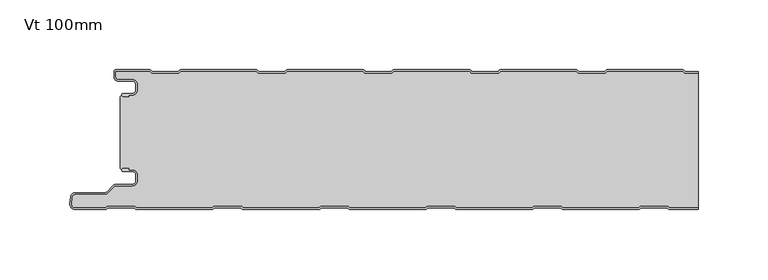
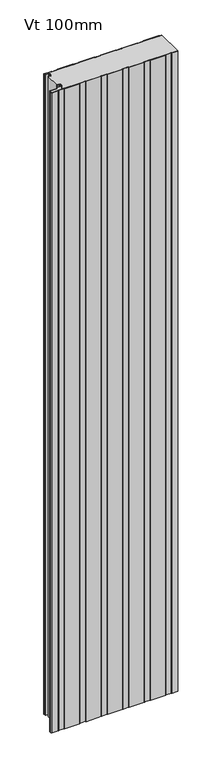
"""IFC4 building model written with IfcOpenShell, lengths in millimetres: plate geometry, KIP-MEX-KSS-1067-R19-CP-Vt-SL_SL : Vt 100mm."""

from ifc_helpers import new_model, si_unit, point, frame, frame_2d, origin, origin_with_axes, place, context, project, spatial, polyline, circle_curve, trimmed, segment, composite_curve, outline, extrude, source, transform, mapped, element, save
from ifc_brep_helpers import plane_surface, cylinder_surface, revolved_surface, advanced_brep


def vt_100mm_c336441d(model_context):
    return source(origin(), model_context, "Body", "SolidModel", [
        advanced_brep(
        [(-204.468691, -17.0015159, 2400.0), (-205.4686883, -18.0015191, 2400.0), (-204.468691, -19.0015105, 2400.0), (-200.4684874, -19.0015105, 2400.0), (-200.4684874, -18.0015159, 2400.0), (-197.7762776, -18.0015159, 2400.0), (-194.4762819, -14.7015202, 2400.0), (-194.4762819, -10.301529, 2400.0), (-197.7762774, -7.0015335, 2400.0), (-208.1962563, -7.0015335, 2400.0), (-209.9662505, -5.2315393, 2400.0), (-209.9662505, -0.9999916, 2400.0), (-185.4659738, -0.9999916, 2400.0), (-184.0803312, -2.2002307, 2400.0), (-164.7051649, -2.2002307, 2400.0), (-163.319532, -1.0, 2400.0), (-109.2661166, -1.0, 2400.0), (-107.8804836, -2.2002307, 2400.0), (-88.5053173, -2.2002307, 2400.0), (-87.1196844, -1.0, 2400.0), (-33.066269, -1.0, 2400.0), (-31.680636, -2.2002307, 2400.0), (-12.3054697, -2.2002307, 2400.0), (-10.9198368, -1.0, 2400.0), (43.1335786, -1.0, 2400.0), (44.5192116, -2.2002307, 2400.0), (63.8943779, -2.2002307, 2400.0), (65.2800108, -1.0, 2400.0), (119.3334262, -1.0, 2400.0), (120.7190592, -2.2002307, 2400.0), (140.0942255, -2.2002307, 2400.0), (141.4798584, -1.0, 2400.0), (195.5332738, -1.0, 2400.0), (196.9189068, -2.2002307, 2400.0), (206.4999998, -2.2002307, 2400.0), (206.4999998, -1.2002307, 2400.0), (197.2917872, -1.2002307, 2400.0), (196.3007396, -0.3417885, 2400.0), (195.3841227, 0.0, 2400.0), (141.6290096, 0.0, 2400.0), (140.7123927, -0.3417885, 2400.0), (139.7213451, -1.2002307, 2400.0), (121.0919396, -1.2002307, 2400.0), (120.100892, -0.3417885, 2400.0), (119.1842751, 0.0, 2400.0), (65.429162, 0.0, 2400.0), (64.5125451, -0.3417885, 2400.0), (63.5214975, -1.2002307, 2400.0), (44.892092, -1.2002307, 2400.0), (43.9010444, -0.3417885, 2400.0), (42.9844275, 0.0, 2400.0), (-10.7706856, 0.0, 2400.0), (-11.6873025, -0.3417885, 2400.0), (-12.6783501, -1.2002307, 2400.0), (-31.3077556, -1.2002307, 2400.0), (-32.2988032, -0.3417885, 2400.0), (-33.2154201, 0.0, 2400.0), (-86.9705332, 0.0, 2400.0), (-87.8871501, -0.3417885, 2400.0), (-88.8781977, -1.2002307, 2400.0), (-107.5076032, -1.2002307, 2400.0), (-108.4986508, -0.3417885, 2400.0), (-109.4152677, 0.0, 2400.0), (-163.1703808, 0.0, 2400.0), (-164.0869977, -0.3417885, 2400.0), (-165.0780453, -1.2002307, 2400.0), (-183.7074508, -1.2002307, 2400.0), (-184.6984984, -0.3417885, 2400.0), (-185.6152067, 0.0, 2400.0), (-209.5662543, 8.4e-06, 2400.0), (-210.9662505, -1.3999878, 2400.0), (-210.9662505, -5.2315393, 2400.0), (-208.1962563, -8.0015335, 2400.0), (-197.7762774, -8.0015335, 2400.0), (-195.4762819, -10.301529, 2400.0), (-195.4762819, -14.7015202, 2400.0), (-197.7762776, -17.0015159, 2400.0), (-204.468691, -17.0015159, 0.0), (-197.7762776, -17.0015159, 0.0), (-195.4762819, -14.7015202, 0.0), (-195.4762819, -10.301529, 0.0), (-197.7762774, -8.0015335, 0.0), (-208.1962563, -8.0015335, 0.0), (-210.9662505, -5.2315393, 0.0), (-210.9662505, -1.3999878, 0.0), (-209.5662543, 8.4e-06, 0.0), (-185.6151153, 8.4e-06, 0.0), (-184.6984984, -0.3417885, 0.0), (-183.7074508, -1.2002307, 0.0), (-165.0780453, -1.2002307, 0.0), (-164.0869977, -0.3417885, 0.0), (-163.1703808, 0.0, 0.0), (-109.4152677, 0.0, 0.0), (-108.4986508, -0.3417885, 0.0), (-107.5076032, -1.2002307, 0.0), (-88.8781977, -1.2002307, 0.0), (-87.8871501, -0.3417885, 0.0), (-86.9705332, 0.0, 0.0), (-33.2154201, 0.0, 0.0), (-32.2988032, -0.3417885, 0.0), (-31.3077556, -1.2002307, 0.0), (-12.6783501, -1.2002307, 0.0), (-11.6873025, -0.3417885, 0.0), (-10.7706856, 0.0, 0.0), (42.9844275, 0.0, 0.0), (43.9010444, -0.3417885, 0.0), (44.892092, -1.2002307, 0.0), (63.5214975, -1.2002307, 0.0), (64.5125451, -0.3417885, 0.0), (65.429162, 0.0, 0.0), (119.1842751, 0.0, 0.0), (120.100892, -0.3417885, 0.0), (121.0919396, -1.2002307, 0.0), (139.7213451, -1.2002307, 0.0), (140.7123927, -0.3417885, 0.0), (141.6290096, 0.0, 0.0), (195.3841227, 0.0, 0.0), (196.3007396, -0.3417885, 0.0), (197.2917872, -1.2002307, 0.0), (206.4999998, -1.2002307, 0.0), (206.4999998, -2.2002307, 0.0), (196.9189068, -2.2002307, 0.0), (195.5332738, -1.0, 0.0), (141.4798584, -1.0, 0.0), (140.0942255, -2.2002307, 0.0), (120.7190592, -2.2002307, 0.0), (119.3334262, -1.0, 0.0), (65.2800108, -1.0, 0.0), (63.8943779, -2.2002307, 0.0), (44.5192116, -2.2002307, 0.0), (43.1335786, -1.0, 0.0), (-10.9198368, -1.0, 0.0), (-12.3054697, -2.2002307, 0.0), (-31.680636, -2.2002307, 0.0), (-33.066269, -1.0, 0.0), (-87.1196844, -1.0, 0.0), (-88.5053173, -2.2002307, 0.0), (-107.8804836, -2.2002307, 0.0), (-109.2661166, -1.0, 0.0), (-163.319532, -1.0, 0.0), (-164.7051649, -2.2002307, 0.0), (-184.0803312, -2.2002307, 0.0), (-185.4659738, -0.9999916, 0.0), (-209.9662505, -0.9999916, 0.0), (-209.9662505, -5.2315393, 0.0), (-208.1962563, -7.0015335, 0.0), (-197.7762774, -7.0015335, 0.0), (-194.4762819, -10.301529, 0.0), (-194.4762819, -14.7015202, 0.0), (-197.7762776, -18.0015159, 0.0), (-200.4684874, -18.0015159, 0.0), (-200.4684874, -19.0015105, 0.0), (-204.468691, -19.0015105, 0.0), (-205.4686882, -18.0015192, 0.0)],
        [
            (0, 1, circle_curve(frame((-204.468691, -18.0015132, 2400.0), z_axis=(0.0, 0.0, 1.0), x_axis=(1.0, 0.0, 0.0)), 0.9999973)),
            (1, 2, circle_curve(frame((-204.468691, -18.0015133, 2400.0), z_axis=(0.0, 0.0, 1.0), x_axis=(1.0, 0.0, 0.0)), 0.9999972)),
            (2, 3),
            (3, 4),
            (4, 5),
            (5, 6, circle_curve(frame((-197.7762776, -14.7015202, 2400.0), z_axis=(0.0, 0.0, 1.0), x_axis=(1.0, 0.0, 0.0)), 3.2999957)),
            (6, 7),
            (7, 8, circle_curve(frame((-197.7762774, -10.301529, 2400.0), z_axis=(0.0, 0.0, 1.0), x_axis=(1.0, 0.0, 0.0)), 3.2999955)),
            (8, 9),
            (9, 10, circle_curve(frame((-208.1962563, -5.2315393, 2400.0), z_axis=(0.0, 0.0, -1.0), x_axis=(1.0, 0.0, 0.0)), 1.7699942)),
            (10, 11),
            (11, 12),
            (12, 13),
            (13, 14),
            (14, 15),
            (15, 16),
            (16, 17),
            (17, 18),
            (18, 19),
            (19, 20),
            (20, 21),
            (21, 22),
            (22, 23),
            (23, 24),
            (24, 25),
            (25, 26),
            (26, 27),
            (27, 28),
            (28, 29),
            (29, 30),
            (30, 31),
            (31, 32),
            (32, 33),
            (33, 34),
            (34, 35),
            (35, 36),
            (36, 37),
            (37, 38, circle_curve(frame((195.3841227, -1.3999972, 2400.0), z_axis=(0.0, 0.0, 1.0), x_axis=(1.0, 0.0, 0.0)), 1.3999972)),
            (38, 39),
            (39, 40, circle_curve(frame((141.6290096, -1.3999972, 2400.0), z_axis=(0.0, 0.0, 1.0), x_axis=(1.0, 0.0, 0.0)), 1.3999972)),
            (40, 41),
            (41, 42),
            (42, 43),
            (43, 44, circle_curve(frame((119.1842751, -1.3999972, 2400.0), z_axis=(0.0, 0.0, 1.0), x_axis=(1.0, 0.0, 0.0)), 1.3999972)),
            (44, 45),
            (45, 46, circle_curve(frame((65.429162, -1.3999972, 2400.0), z_axis=(0.0, 0.0, 1.0), x_axis=(1.0, 0.0, 0.0)), 1.3999972)),
            (46, 47),
            (47, 48),
            (48, 49),
            (49, 50, circle_curve(frame((42.9844275, -1.3999972, 2400.0), z_axis=(0.0, 0.0, 1.0), x_axis=(1.0, 0.0, 0.0)), 1.3999972)),
            (50, 51),
            (51, 52, circle_curve(frame((-10.7706856, -1.3999972, 2400.0), z_axis=(0.0, 0.0, 1.0), x_axis=(1.0, 0.0, 0.0)), 1.3999972)),
            (52, 53),
            (53, 54),
            (54, 55),
            (55, 56, circle_curve(frame((-33.2154201, -1.3999972, 2400.0), z_axis=(0.0, 0.0, 1.0), x_axis=(1.0, 0.0, 0.0)), 1.3999972)),
            (56, 57),
            (57, 58, circle_curve(frame((-86.9705332, -1.3999972, 2400.0), z_axis=(0.0, 0.0, 1.0), x_axis=(1.0, 0.0, 0.0)), 1.3999972)),
            (58, 59),
            (59, 60),
            (60, 61),
            (61, 62, circle_curve(frame((-109.4152677, -1.3999972, 2400.0), z_axis=(0.0, 0.0, 1.0), x_axis=(1.0, 0.0, 0.0)), 1.3999972)),
            (62, 63),
            (63, 64, circle_curve(frame((-163.1703808, -1.3999972, 2400.0), z_axis=(0.0, 0.0, 1.0), x_axis=(1.0, 0.0, 0.0)), 1.3999972)),
            (64, 65),
            (65, 66),
            (66, 67),
            (67, 68, circle_curve(frame((-185.6151153, -1.3999972, 2400.0), z_axis=(0.0, 0.0, 1.0), x_axis=(1.0, 0.0, 0.0)), 1.3999972)),
            (68, 69),
            (69, 70, circle_curve(frame((-209.5662543, -1.3999878, 2400.0), z_axis=(0.0, 0.0, 1.0), x_axis=(1.0, 0.0, 0.0)), 1.3999962)),
            (70, 71),
            (71, 72, circle_curve(frame((-208.1962563, -5.2315393, 2400.0), z_axis=(0.0, 0.0, 1.0), x_axis=(1.0, 0.0, 0.0)), 2.7699942)),
            (72, 73),
            (73, 74, circle_curve(frame((-197.7762774, -10.301529, 2400.0), z_axis=(0.0, 0.0, -1.0), x_axis=(1.0, 0.0, 0.0)), 2.2999955)),
            (74, 75),
            (75, 76, circle_curve(frame((-197.7762776, -14.7015202, 2400.0), z_axis=(0.0, 0.0, -1.0), x_axis=(1.0, 0.0, 0.0)), 2.2999957)),
            (76, 0),
            (77, 78),
            (78, 79, circle_curve(frame((-197.7762776, -14.7015202, 0.0), z_axis=(0.0, 0.0, 1.0), x_axis=(1.0, 0.0, 0.0)), 2.2999957)),
            (79, 80),
            (80, 81, circle_curve(frame((-197.7762774, -10.301529, 0.0), z_axis=(0.0, 0.0, 1.0), x_axis=(1.0, 0.0, 0.0)), 2.2999955)),
            (81, 82),
            (82, 83, circle_curve(frame((-208.1962563, -5.2315393, 0.0), z_axis=(0.0, 0.0, -1.0), x_axis=(1.0, 0.0, 0.0)), 2.7699942)),
            (83, 84),
            (84, 85, circle_curve(frame((-209.5662543, -1.3999878, 0.0), z_axis=(0.0, 0.0, -1.0), x_axis=(1.0, 0.0, 0.0)), 1.3999962)),
            (85, 86),
            (86, 87, circle_curve(frame((-185.6151153, -1.3999972, 0.0), z_axis=(0.0, 0.0, -1.0), x_axis=(1.0, 0.0, 0.0)), 1.3999972)),
            (87, 88),
            (88, 89),
            (89, 90),
            (90, 91, circle_curve(frame((-163.1703808, -1.3999972, 0.0), z_axis=(0.0, 0.0, -1.0), x_axis=(1.0, 0.0, 0.0)), 1.3999972)),
            (91, 92),
            (92, 93, circle_curve(frame((-109.4152677, -1.3999972, 0.0), z_axis=(0.0, 0.0, -1.0), x_axis=(1.0, 0.0, 0.0)), 1.3999972)),
            (93, 94),
            (94, 95),
            (95, 96),
            (96, 97, circle_curve(frame((-86.9705332, -1.3999972, 0.0), z_axis=(0.0, 0.0, -1.0), x_axis=(1.0, 0.0, 0.0)), 1.3999972)),
            (97, 98),
            (98, 99, circle_curve(frame((-33.2154201, -1.3999972, 0.0), z_axis=(0.0, 0.0, -1.0), x_axis=(1.0, 0.0, 0.0)), 1.3999972)),
            (99, 100),
            (100, 101),
            (101, 102),
            (102, 103, circle_curve(frame((-10.7706856, -1.3999972, 0.0), z_axis=(0.0, 0.0, -1.0), x_axis=(1.0, 0.0, 0.0)), 1.3999972)),
            (103, 104),
            (104, 105, circle_curve(frame((42.9844275, -1.3999972, 0.0), z_axis=(0.0, 0.0, -1.0), x_axis=(1.0, 0.0, 0.0)), 1.3999972)),
            (105, 106),
            (106, 107),
            (107, 108),
            (108, 109, circle_curve(frame((65.429162, -1.3999972, 0.0), z_axis=(0.0, 0.0, -1.0), x_axis=(1.0, 0.0, 0.0)), 1.3999972)),
            (109, 110),
            (110, 111, circle_curve(frame((119.1842751, -1.3999972, 0.0), z_axis=(0.0, 0.0, -1.0), x_axis=(1.0, 0.0, 0.0)), 1.3999972)),
            (111, 112),
            (112, 113),
            (113, 114),
            (114, 115, circle_curve(frame((141.6290096, -1.3999972, 0.0), z_axis=(0.0, 0.0, -1.0), x_axis=(1.0, 0.0, 0.0)), 1.3999972)),
            (115, 116),
            (116, 117, circle_curve(frame((195.3841227, -1.3999972, 0.0), z_axis=(0.0, 0.0, -1.0), x_axis=(1.0, 0.0, 0.0)), 1.3999972)),
            (117, 118),
            (118, 119),
            (119, 120),
            (120, 121),
            (121, 122),
            (122, 123),
            (123, 124),
            (124, 125),
            (125, 126),
            (126, 127),
            (127, 128),
            (128, 129),
            (129, 130),
            (130, 131),
            (131, 132),
            (132, 133),
            (133, 134),
            (134, 135),
            (135, 136),
            (136, 137),
            (137, 138),
            (138, 139),
            (139, 140),
            (140, 141),
            (141, 142),
            (142, 143),
            (143, 144),
            (144, 145, circle_curve(frame((-208.1962563, -5.2315393, 0.0), z_axis=(0.0, 0.0, 1.0), x_axis=(1.0, 0.0, 0.0)), 1.7699942)),
            (145, 146),
            (146, 147, circle_curve(frame((-197.7762774, -10.301529, 0.0), z_axis=(0.0, 0.0, -1.0), x_axis=(1.0, 0.0, 0.0)), 3.2999955)),
            (147, 148),
            (148, 149, circle_curve(frame((-197.7762776, -14.7015202, 0.0), z_axis=(0.0, 0.0, -1.0), x_axis=(1.0, 0.0, 0.0)), 3.2999957)),
            (149, 150),
            (150, 151),
            (151, 152),
            (152, 153, circle_curve(frame((-204.468691, -18.0015133, 0.0), z_axis=(0.0, 0.0, -1.0), x_axis=(1.0, 0.0, 0.0)), 0.9999972)),
            (153, 77, circle_curve(frame((-204.468691, -18.0015132, 0.0), z_axis=(0.0, 0.0, -1.0), x_axis=(1.0, 0.0, 0.0)), 0.9999973)),
            (76, 78),
            (77, 0),
            (75, 79),
            (74, 80),
            (73, 81),
            (72, 82),
            (71, 83),
            (70, 84),
            (69, 85),
            (68, 86),
            (67, 87),
            (66, 88),
            (65, 89),
            (64, 90),
            (63, 91),
            (62, 92),
            (61, 93),
            (60, 94),
            (59, 95),
            (58, 96),
            (57, 97),
            (56, 98),
            (55, 99),
            (54, 100),
            (53, 101),
            (52, 102),
            (51, 103),
            (50, 104),
            (49, 105),
            (48, 106),
            (47, 107),
            (46, 108),
            (45, 109),
            (44, 110),
            (43, 111),
            (42, 112),
            (41, 113),
            (40, 114),
            (39, 115),
            (38, 116),
            (37, 117),
            (36, 118),
            (35, 119),
            (120, 34),
            (33, 121),
            (32, 122),
            (31, 123),
            (30, 124),
            (29, 125),
            (28, 126),
            (27, 127),
            (26, 128),
            (25, 129),
            (24, 130),
            (23, 131),
            (22, 132),
            (21, 133),
            (20, 134),
            (19, 135),
            (18, 136),
            (17, 137),
            (16, 138),
            (15, 139),
            (14, 140),
            (13, 141),
            (12, 142),
            (11, 143),
            (10, 144),
            (9, 145),
            (8, 146),
            (7, 147),
            (6, 148),
            (5, 149),
            (4, 150),
            (3, 151),
            (2, 152),
            (1, 153),
        ],
        [
            plane_surface(frame((326.9000002, 0.0, 2400.0), z_axis=(0.0, 0.0, 1.0), x_axis=(0.0, 1.0, 0.0))),
            plane_surface(frame((326.9000002, 0.0, 0.0), z_axis=(0.0, 0.0, -1.0), x_axis=(0.0, 1.0, 0.0))),
            plane_surface(frame((-204.468691, -17.0015159, 2400.0), z_axis=(0.0, 1.0, 0.0), x_axis=(0.0, 0.0, -1.0))),
            revolved_surface(polyline([(-195.47628189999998, -14.7015202, 0.0), (-195.47628189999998, -14.7015202, 2400.0)]), (-197.7762776, -14.7015202, 2400.0), (0.0, 0.0, -1.0)),
            plane_surface(frame((-195.4762819, -14.7015202, 2400.0), z_axis=(-1.0, 0.0, 0.0), x_axis=(0.0, 0.0, -1.0))),
            revolved_surface(polyline([(-195.4762819, -10.301529, 0.0), (-195.4762819, -10.301529, 2400.0)]), (-197.7762774, -10.301529, 2400.0), (0.0, 0.0, -1.0)),
            plane_surface(frame((-197.7762774, -8.0015335, 2400.0), z_axis=(0.0, -1.0, 0.0), x_axis=(0.0, 0.0, -1.0))),
            cylinder_surface(frame((-208.1962563, -5.2315393, 2400.0), z_axis=(0.0, 0.0, 1.0), x_axis=(1.0, 0.0, 0.0)), 2.7699942),
            plane_surface(frame((-210.9662505, -5.2315393, 2400.0), z_axis=(-1.0, 0.0, 0.0), x_axis=(0.0, 0.0, -1.0))),
            cylinder_surface(frame((-209.5662543, -1.3999878, 2400.0), z_axis=(0.0, 0.0, 1.0), x_axis=(1.0, 0.0, 0.0)), 1.3999962),
            plane_surface(frame((-209.5662543, 8.4e-06, 2400.0), z_axis=(0.0, 1.0, 0.0), x_axis=(0.0, 0.0, -1.0))),
            cylinder_surface(frame((-185.6151153, -1.3999972, 2400.0), z_axis=(0.0, 0.0, 1.0), x_axis=(1.0, 0.0, 0.0)), 1.3999972),
            plane_surface(frame((-184.6984984, -0.3417885, 2400.0), z_axis=(0.6547276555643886, 0.755864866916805, 0.0), x_axis=(0.0, 0.0, -1.0))),
            plane_surface(frame((-174.3927481, -1.2002307, 2400.0), z_axis=(0.0, 1.0, 0.0), x_axis=(0.0, 0.0, -1.0))),
            plane_surface(frame((-165.0780453, -1.2002307, 2400.0), z_axis=(-0.6547276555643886, 0.755864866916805, 0.0), x_axis=(0.0, 0.0, -1.0))),
            cylinder_surface(frame((-163.1703808, -1.3999972, 2400.0), z_axis=(0.0, 0.0, 1.0), x_axis=(1.0, 0.0, 0.0)), 1.3999972),
            plane_surface(frame((-163.1703808, 0.0, 2400.0), z_axis=(0.0, 1.0, 0.0), x_axis=(0.0, 0.0, -1.0))),
            cylinder_surface(frame((-109.4152677, -1.3999972, 2400.0), z_axis=(0.0, 0.0, 1.0), x_axis=(1.0, 0.0, 0.0)), 1.3999972),
            plane_surface(frame((-108.4986508, -0.3417885, 2400.0), z_axis=(0.6547276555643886, 0.755864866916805, 0.0), x_axis=(0.0, 0.0, -1.0))),
            plane_surface(frame((-98.1929005, -1.2002307, 2400.0), z_axis=(0.0, 1.0, 0.0), x_axis=(0.0, 0.0, -1.0))),
            plane_surface(frame((-88.8781977, -1.2002307, 2400.0), z_axis=(-0.6547276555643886, 0.755864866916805, 0.0), x_axis=(0.0, 0.0, -1.0))),
            cylinder_surface(frame((-86.9705332, -1.3999972, 2400.0), z_axis=(0.0, 0.0, 1.0), x_axis=(1.0, 0.0, 0.0)), 1.3999972),
            plane_surface(frame((-86.9705332, 0.0, 2400.0), z_axis=(0.0, 1.0, 0.0), x_axis=(0.0, 0.0, -1.0))),
            cylinder_surface(frame((-33.2154201, -1.3999972, 2400.0), z_axis=(0.0, 0.0, 1.0), x_axis=(1.0, 0.0, 0.0)), 1.3999972),
            plane_surface(frame((-32.2988032, -0.3417885, 2400.0), z_axis=(0.6547276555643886, 0.755864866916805, 0.0), x_axis=(0.0, 0.0, -1.0))),
            plane_surface(frame((-21.9930529, -1.2002307, 2400.0), z_axis=(0.0, 1.0, 0.0), x_axis=(0.0, 0.0, -1.0))),
            plane_surface(frame((-12.6783501, -1.2002307, 2400.0), z_axis=(-0.6547276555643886, 0.755864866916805, 0.0), x_axis=(0.0, 0.0, -1.0))),
            cylinder_surface(frame((-10.7706856, -1.3999972, 2400.0), z_axis=(0.0, 0.0, 1.0), x_axis=(1.0, 0.0, 0.0)), 1.3999972),
            plane_surface(frame((-10.7706856, 0.0, 2400.0), z_axis=(0.0, 1.0, 0.0), x_axis=(0.0, 0.0, -1.0))),
            cylinder_surface(frame((42.9844275, -1.3999972, 2400.0), z_axis=(0.0, 0.0, 1.0), x_axis=(1.0, 0.0, 0.0)), 1.3999972),
            plane_surface(frame((43.9010444, -0.3417885, 2400.0), z_axis=(0.6547276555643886, 0.755864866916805, 0.0), x_axis=(0.0, 0.0, -1.0))),
            plane_surface(frame((54.2067947, -1.2002307, 2400.0), z_axis=(0.0, 1.0, 0.0), x_axis=(0.0, 0.0, -1.0))),
            plane_surface(frame((63.5214975, -1.2002307, 2400.0), z_axis=(-0.6547276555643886, 0.755864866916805, 0.0), x_axis=(0.0, 0.0, -1.0))),
            cylinder_surface(frame((65.429162, -1.3999972, 2400.0), z_axis=(0.0, 0.0, 1.0), x_axis=(1.0, 0.0, 0.0)), 1.3999972),
            plane_surface(frame((65.429162, 0.0, 2400.0), z_axis=(0.0, 1.0, 0.0), x_axis=(0.0, 0.0, -1.0))),
            cylinder_surface(frame((119.1842751, -1.3999972, 2400.0), z_axis=(0.0, 0.0, 1.0), x_axis=(1.0, 0.0, 0.0)), 1.3999972),
            plane_surface(frame((120.100892, -0.3417885, 2400.0), z_axis=(0.6547276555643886, 0.755864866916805, 0.0), x_axis=(0.0, 0.0, -1.0))),
            plane_surface(frame((130.4066423, -1.2002307, 2400.0), z_axis=(0.0, 1.0, 0.0), x_axis=(0.0, 0.0, -1.0))),
            plane_surface(frame((139.7213451, -1.2002307, 2400.0), z_axis=(-0.6547276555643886, 0.755864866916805, 0.0), x_axis=(0.0, 0.0, -1.0))),
            cylinder_surface(frame((141.6290096, -1.3999972, 2400.0), z_axis=(0.0, 0.0, 1.0), x_axis=(1.0, 0.0, 0.0)), 1.3999972),
            plane_surface(frame((141.6290096, 0.0, 2400.0), z_axis=(0.0, 1.0, 0.0), x_axis=(0.0, 0.0, -1.0))),
            cylinder_surface(frame((195.3841227, -1.3999972, 2400.0), z_axis=(0.0, 0.0, 1.0), x_axis=(1.0, 0.0, 0.0)), 1.3999972),
            plane_surface(frame((196.3007396, -0.3417885, 2400.0), z_axis=(0.6547276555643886, 0.755864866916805, 0.0), x_axis=(0.0, 0.0, -1.0))),
            plane_surface(frame((206.6064899, -1.2002307, 2400.0), z_axis=(0.0, 1.0, 0.0), x_axis=(0.0, 0.0, -1.0))),
            plane_surface(frame((216.2940731, -2.2002307, 2400.0), z_axis=(0.0, -1.0, 0.0), x_axis=(0.0, 0.0, -1.0))),
            plane_surface(frame((196.9189068, -2.2002307, 2400.0), z_axis=(-0.6547276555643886, -0.755864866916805, 0.0), x_axis=(0.0, 0.0, -1.0))),
            plane_surface(frame((195.5332738, -1.0, 2400.0), z_axis=(0.0, -1.0, 0.0), x_axis=(0.0, 0.0, -1.0))),
            plane_surface(frame((141.4798584, -1.0, 2400.0), z_axis=(0.6547276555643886, -0.755864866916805, 0.0), x_axis=(0.0, 0.0, -1.0))),
            plane_surface(frame((140.0942255, -2.2002307, 2400.0), z_axis=(0.0, -1.0, 0.0), x_axis=(0.0, 0.0, -1.0))),
            plane_surface(frame((120.7190592, -2.2002307, 2400.0), z_axis=(-0.6547276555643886, -0.755864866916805, 0.0), x_axis=(0.0, 0.0, -1.0))),
            plane_surface(frame((119.3334262, -1.0, 2400.0), z_axis=(0.0, -1.0, 0.0), x_axis=(0.0, 0.0, -1.0))),
            plane_surface(frame((65.2800108, -1.0, 2400.0), z_axis=(0.6547276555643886, -0.755864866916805, 0.0), x_axis=(0.0, 0.0, -1.0))),
            plane_surface(frame((63.8943779, -2.2002307, 2400.0), z_axis=(0.0, -1.0, 0.0), x_axis=(0.0, 0.0, -1.0))),
            plane_surface(frame((44.5192116, -2.2002307, 2400.0), z_axis=(-0.6547276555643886, -0.755864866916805, 0.0), x_axis=(0.0, 0.0, -1.0))),
            plane_surface(frame((43.1335786, -1.0, 2400.0), z_axis=(0.0, -1.0, 0.0), x_axis=(0.0, 0.0, -1.0))),
            plane_surface(frame((-10.9198368, -1.0, 2400.0), z_axis=(0.6547276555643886, -0.755864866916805, 0.0), x_axis=(0.0, 0.0, -1.0))),
            plane_surface(frame((-12.3054697, -2.2002307, 2400.0), z_axis=(0.0, -1.0, 0.0), x_axis=(0.0, 0.0, -1.0))),
            plane_surface(frame((-31.680636, -2.2002307, 2400.0), z_axis=(-0.6547276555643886, -0.755864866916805, 0.0), x_axis=(0.0, 0.0, -1.0))),
            plane_surface(frame((-33.066269, -1.0, 2400.0), z_axis=(0.0, -1.0, 0.0), x_axis=(0.0, 0.0, -1.0))),
            plane_surface(frame((-87.1196844, -1.0, 2400.0), z_axis=(0.6547276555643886, -0.755864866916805, 0.0), x_axis=(0.0, 0.0, -1.0))),
            plane_surface(frame((-88.5053173, -2.2002307, 2400.0), z_axis=(0.0, -1.0, 0.0), x_axis=(0.0, 0.0, -1.0))),
            plane_surface(frame((-107.8804836, -2.2002307, 2400.0), z_axis=(-0.6547276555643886, -0.755864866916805, 0.0), x_axis=(0.0, 0.0, -1.0))),
            plane_surface(frame((-109.2661166, -1.0, 2400.0), z_axis=(0.0, -1.0, 0.0), x_axis=(0.0, 0.0, -1.0))),
            plane_surface(frame((-163.319532, -1.0, 2400.0), z_axis=(0.6547276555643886, -0.755864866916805, 0.0), x_axis=(0.0, 0.0, -1.0))),
            plane_surface(frame((-164.7051649, -2.2002307, 2400.0), z_axis=(0.0, -1.0, 0.0), x_axis=(0.0, 0.0, -1.0))),
            plane_surface(frame((-184.0803312, -2.2002307, 2400.0), z_axis=(-0.6547276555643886, -0.755864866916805, 0.0), x_axis=(0.0, 0.0, -1.0))),
            plane_surface(frame((-185.4659738, -0.9999916, 2400.0), z_axis=(0.0, -1.0, 0.0), x_axis=(0.0, 0.0, -1.0))),
            plane_surface(frame((-209.9662505, -0.9999916, 2400.0), z_axis=(1.0, 0.0, 0.0), x_axis=(0.0, 0.0, -1.0))),
            revolved_surface(polyline([(-206.42626209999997, -5.2315393, 0.0), (-206.42626209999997, -5.2315393, 2400.0)]), (-208.1962563, -5.2315393, 2400.0), (0.0, 0.0, -1.0)),
            plane_surface(frame((-208.1962563, -7.0015335, 2400.0), z_axis=(0.0, 1.0, 0.0), x_axis=(0.0, 0.0, -1.0))),
            cylinder_surface(frame((-197.7762774, -10.301529, 2400.0), z_axis=(0.0, 0.0, 1.0), x_axis=(1.0, 0.0, 0.0)), 3.2999955),
            plane_surface(frame((-194.4762819, -10.301529, 2400.0), z_axis=(1.0, 0.0, 0.0), x_axis=(0.0, 0.0, -1.0))),
            cylinder_surface(frame((-197.7762776, -14.7015202, 2400.0), z_axis=(0.0, 0.0, 1.0), x_axis=(1.0, 0.0, 0.0)), 3.2999957),
            plane_surface(frame((-197.7762776, -18.0015159, 2400.0), z_axis=(0.0, -1.0, 0.0), x_axis=(0.0, 0.0, -1.0))),
            plane_surface(frame((-200.4684874, -18.0015159, 2400.0), z_axis=(1.0, 0.0, 0.0), x_axis=(0.0, 0.0, -1.0))),
            plane_surface(frame((-200.4684874, -19.0015105, 2400.0), z_axis=(0.0, -1.0, 0.0), x_axis=(0.0, 0.0, -1.0))),
            cylinder_surface(frame((-204.468691, -18.0015133, 2400.0), z_axis=(0.0, 0.0, 1.0), x_axis=(1.0, 0.0, 0.0)), 0.9999972),
            cylinder_surface(frame((-204.468691, -18.0015132, 2400.0), z_axis=(0.0, 0.0, 1.0), x_axis=(1.0, 0.0, 0.0)), 0.9999973),
            plane_surface(frame((206.4999998, -110.0, 2400.0), z_axis=(1.0, 0.0, 0.0), x_axis=(0.0, 0.0, -1.0))),
        ],
        [
            (0, [[1, 2, 3, 4, 5, 6, 7, 8, 9, 10, 11, 12, 13, 14, 15, 16, 17, 18, 19, 20, 21, 22, 23, 24, 25, 26, 27, 28, 29, 30, 31, 32, 33, 34, 35, 36, 37, 38, 39, 40, 41, 42, 43, 44, 45, 46, 47, 48, 49, 50, 51, 52, 53, 54, 55, 56, 57, 58, 59, 60, 61, 62, 63, 64, 65, 66, 67, 68, 69, 70, 71, 72, 73, 74, 75, 76, 77]]),
            (1, [[78, 79, 80, 81, 82, 83, 84, 85, 86, 87, 88, 89, 90, 91, 92, 93, 94, 95, 96, 97, 98, 99, 100, 101, 102, 103, 104, 105, 106, 107, 108, 109, 110, 111, 112, 113, 114, 115, 116, 117, 118, 119, 120, 121, 122, 123, 124, 125, 126, 127, 128, 129, 130, 131, 132, 133, 134, 135, 136, 137, 138, 139, 140, 141, 142, 143, 144, 145, 146, 147, 148, 149, 150, 151, 152, 153, 154]]),
            (2, [[155, -78, 156, -77]]),
            (3, [[157, -79, -155, -76]]),
            (4, [[158, -80, -157, -75]]),
            (5, [[159, -81, -158, -74]]),
            (6, [[160, -82, -159, -73]]),
            (7, [[161, -83, -160, -72]]),
            (8, [[162, -84, -161, -71]]),
            (9, [[163, -85, -162, -70]]),
            (10, [[164, -86, -163, -69]]),
            (11, [[165, -87, -164, -68]]),
            (12, [[166, -88, -165, -67]]),
            (13, [[167, -89, -166, -66]]),
            (14, [[168, -90, -167, -65]]),
            (15, [[169, -91, -168, -64]]),
            (16, [[170, -92, -169, -63]]),
            (17, [[171, -93, -170, -62]]),
            (18, [[172, -94, -171, -61]]),
            (19, [[173, -95, -172, -60]]),
            (20, [[174, -96, -173, -59]]),
            (21, [[175, -97, -174, -58]]),
            (22, [[176, -98, -175, -57]]),
            (23, [[177, -99, -176, -56]]),
            (24, [[178, -100, -177, -55]]),
            (25, [[179, -101, -178, -54]]),
            (26, [[180, -102, -179, -53]]),
            (27, [[181, -103, -180, -52]]),
            (28, [[182, -104, -181, -51]]),
            (29, [[183, -105, -182, -50]]),
            (30, [[184, -106, -183, -49]]),
            (31, [[185, -107, -184, -48]]),
            (32, [[186, -108, -185, -47]]),
            (33, [[187, -109, -186, -46]]),
            (34, [[188, -110, -187, -45]]),
            (35, [[189, -111, -188, -44]]),
            (36, [[190, -112, -189, -43]]),
            (37, [[191, -113, -190, -42]]),
            (38, [[192, -114, -191, -41]]),
            (39, [[193, -115, -192, -40]]),
            (40, [[194, -116, -193, -39]]),
            (41, [[195, -117, -194, -38]]),
            (42, [[196, -118, -195, -37]]),
            (43, [[-36, 197, -119, -196]]),
            (44, [[-121, 198, -34, 199]]),
            (45, [[200, -122, -199, -33]]),
            (46, [[201, -123, -200, -32]]),
            (47, [[202, -124, -201, -31]]),
            (48, [[203, -125, -202, -30]]),
            (49, [[204, -126, -203, -29]]),
            (50, [[205, -127, -204, -28]]),
            (51, [[206, -128, -205, -27]]),
            (52, [[207, -129, -206, -26]]),
            (53, [[208, -130, -207, -25]]),
            (54, [[209, -131, -208, -24]]),
            (55, [[210, -132, -209, -23]]),
            (56, [[211, -133, -210, -22]]),
            (57, [[212, -134, -211, -21]]),
            (58, [[213, -135, -212, -20]]),
            (59, [[214, -136, -213, -19]]),
            (60, [[215, -137, -214, -18]]),
            (61, [[216, -138, -215, -17]]),
            (62, [[217, -139, -216, -16]]),
            (63, [[218, -140, -217, -15]]),
            (64, [[219, -141, -218, -14]]),
            (65, [[220, -142, -219, -13]]),
            (66, [[221, -143, -220, -12]]),
            (67, [[222, -144, -221, -11]]),
            (68, [[223, -145, -222, -10]]),
            (69, [[224, -146, -223, -9]]),
            (70, [[225, -147, -224, -8]]),
            (71, [[226, -148, -225, -7]]),
            (72, [[227, -149, -226, -6]]),
            (73, [[228, -150, -227, -5]]),
            (74, [[229, -151, -228, -4]]),
            (75, [[230, -152, -229, -3]]),
            (76, [[231, -153, -230, -2]]),
            (77, [[-156, -154, -231, -1]]),
            (78, [[-198, -120, -197, -35]]),
        ],
    ),
        extrude(outline(composite_curve([segment(polyline([(-217.1415932, -100.0006394), (-238.9521175, -100.0006394)]), True, "CONTINUOUS"), segment(trimmed(circle_curve(frame_2d((-238.9521175, -96.4304001)), 3.5702393), [point((-238.9521175, -100.0006394))], [point((-242.5087619, -96.1191297))], False, "CARTESIAN"), True, "CONTINUOUS"), segment(polyline([(-242.5087619, -96.1191297), (-242.0690674, -91.0950831)]), True, "CONTINUOUS"), segment(trimmed(circle_curve(frame_2d((-238.4198391, -91.7058842)), 3.6999926), [point((-242.0690674, -91.0950831))], [point((-238.4198391, -88.0058916))], False, "CARTESIAN"), True, "CONTINUOUS"), segment(polyline([(-238.4198391, -88.0058916), (-217.2773995, -88.0058916)]), True, "CONTINUOUS"), segment(trimmed(circle_curve(frame_2d((-217.2773995, -86.7058942)), 1.2999974), [point((-217.2773995, -88.0058916))], [point((-216.3581626, -87.6251312))], True, "CARTESIAN"), True, "CONTINUOUS"), segment(polyline([(-216.3581626, -87.6251312), (-211.5297451, -82.7967137)]), True, "CONTINUOUS"), segment(trimmed(circle_curve(frame_2d((-209.6205606, -84.7058982)), 2.6999946), [point((-211.5297451, -82.7967137))], [point((-209.6205606, -82.0059036))], False, "CARTESIAN"), True, "CONTINUOUS"), segment(polyline([(-209.6205606, -82.0059036), (-197.8096715, -82.0059036)]), True, "CONTINUOUS"), segment(trimmed(circle_curve(frame_2d((-197.8096715, -79.6559083)), 2.3499953), [point((-197.8096715, -82.0059036))], [point((-195.4596762, -79.6559083))], True, "CARTESIAN"), True, "CONTINUOUS"), segment(polyline([(-195.4596762, -79.6559083), (-195.4596762, -75.2559171)]), True, "CONTINUOUS"), segment(trimmed(circle_curve(frame_2d((-197.8096715, -75.2559171)), 2.3499953), [point((-195.4596762, -75.2559171))], [point((-197.8096715, -72.9059218))], True, "CARTESIAN"), True, "CONTINUOUS"), segment(polyline([(-197.8096715, -72.9059218), (-204.3289777, -72.9059218)]), True, "CONTINUOUS"), segment(trimmed(circle_curve(frame_2d((-204.2686906, -71.7074396)), 1.1999976), [point((-204.3289777, -72.9059218))], [point((-205.4683, -71.6769177))], False, "CARTESIAN"), True, "CONTINUOUS"), segment(trimmed(circle_curve(frame_2d((-204.2686906, -71.7074396)), 1.1999976), [point((-205.4683, -71.6769177))], [point((-204.267176, -70.5074429))], False, "CARTESIAN"), True, "CONTINUOUS"), segment(polyline([(-204.267176, -70.5074429), (-200.5087826, -70.5074429), (-200.5087826, -71.9059218), (-197.8096715, -71.9059218)]), True, "CONTINUOUS"), segment(trimmed(circle_curve(frame_2d((-197.8096715, -75.2559171)), 3.3499953), [point((-197.8096715, -71.9059218))], [point((-194.4596762, -75.2559171))], False, "CARTESIAN"), True, "CONTINUOUS"), segment(polyline([(-194.4596762, -75.2559171), (-194.4596762, -79.6559083)]), True, "CONTINUOUS"), segment(trimmed(circle_curve(frame_2d((-197.8096715, -79.6559083)), 3.3499953), [point((-194.4596762, -79.6559083))], [point((-197.8096715, -83.0059036))], False, "CARTESIAN"), True, "CONTINUOUS"), segment(polyline([(-197.8096715, -83.0059036), (-209.6205606, -83.0059036)]), True, "CONTINUOUS"), segment(trimmed(circle_curve(frame_2d((-209.6205606, -84.7058982)), 1.6999946), [point((-209.6205606, -83.0059036))], [point((-210.8226383, -83.5038205))], True, "CARTESIAN"), True, "CONTINUOUS"), segment(polyline([(-210.8226383, -83.5038205), (-216.3247094, -89.0058916), (-238.4198391, -89.0058916)]), True, "CONTINUOUS"), segment(trimmed(circle_curve(frame_2d((-238.4198391, -91.7058842)), 2.6999926), [point((-238.4198391, -89.0058916))], [point((-241.0765707, -91.2244936))], True, "CARTESIAN"), True, "CONTINUOUS"), segment(polyline([(-241.0765707, -91.2244936), (-241.5125697, -96.2063145)]), True, "CONTINUOUS"), segment(trimmed(circle_curve(frame_2d((-238.9521175, -96.4304001)), 2.5702393), [point((-241.5125697, -96.2063145))], [point((-238.9521175, -99.0006394))], True, "CARTESIAN"), True, "CONTINUOUS"), segment(polyline([(-238.9521175, -99.0006394), (-216.979096, -99.0006394), (-215.7791275, -97.8006709), (-196.059715, -97.8006709), (-194.8594843, -99.0009016), (-140.7793525, -99.0009016), (-139.5791218, -97.8006709), (-119.8597093, -97.8006709), (-118.6594786, -99.0009016), (-64.5793468, -99.0009016), (-63.3791161, -97.8006709), (-43.6597036, -97.8006709), (-42.4594729, -99.0009016), (11.6206589, -99.0009016), (12.8208896, -97.8006709), (32.5403021, -97.8006709), (33.7405328, -99.0009016), (87.8206646, -99.0009016), (89.0208953, -97.8006709), (108.7403078, -97.8006709), (109.9405385, -99.0009016), (164.0206703, -99.0009016), (165.220901, -97.8006709), (184.9403135, -97.8006709), (186.1405442, -99.0009016), (206.4999998, -99.0009016), (206.4999998, -100.0009016), (186.3099792, -100.0009016)]), True, "CONTINUOUS"), segment(trimmed(circle_curve(frame_2d((186.3023258, -98.6009253)), 1.3999972), [point((186.3099792, -100.0009016))], [point((185.258275, -99.5336365))], False, "CARTESIAN"), True, "CONTINUOUS"), segment(polyline([(185.258275, -99.5336365), (184.5253094, -98.8006709), (165.6346402, -98.8006709), (164.9016956, -99.5336156)]), True, "CONTINUOUS"), segment(trimmed(circle_curve(frame_2d((163.8576448, -98.6009044)), 1.3999972), [point((164.9016956, -99.5336156))], [point((163.8576448, -100.0009016))], False, "CARTESIAN"), True, "CONTINUOUS"), segment(polyline([(163.8576448, -100.0009016), (110.1101316, -100.0009016)]), True, "CONTINUOUS"), segment(trimmed(circle_curve(frame_2d((110.1024782, -98.6009253)), 1.3999972), [point((110.1101316, -100.0009016))], [point((109.0584274, -99.5336365))], False, "CARTESIAN"), True, "CONTINUOUS"), segment(polyline([(109.0584274, -99.5336365), (108.3254618, -98.8006709), (89.4347926, -98.8006709), (88.701848, -99.5336156)]), True, "CONTINUOUS"), segment(trimmed(circle_curve(frame_2d((87.6577972, -98.6009044)), 1.3999972), [point((88.701848, -99.5336156))], [point((87.6577972, -100.0009016))], False, "CARTESIAN"), True, "CONTINUOUS"), segment(polyline([(87.6577972, -100.0009016), (33.910284, -100.0009016)]), True, "CONTINUOUS"), segment(trimmed(circle_curve(frame_2d((33.9026306, -98.6009253)), 1.3999972), [point((33.910284, -100.0009016))], [point((32.8585798, -99.5336365))], False, "CARTESIAN"), True, "CONTINUOUS"), segment(polyline([(32.8585798, -99.5336365), (32.1256142, -98.8006709), (13.234945, -98.8006709), (12.5020004, -99.5336156)]), True, "CONTINUOUS"), segment(trimmed(circle_curve(frame_2d((11.4579496, -98.6009044)), 1.3999972), [point((12.5020004, -99.5336156))], [point((11.4579496, -100.0009016))], False, "CARTESIAN"), True, "CONTINUOUS"), segment(polyline([(11.4579496, -100.0009016), (-42.2895636, -100.0009016)]), True, "CONTINUOUS"), segment(trimmed(circle_curve(frame_2d((-42.297217, -98.6009253)), 1.3999972), [point((-42.2895636, -100.0009016))], [point((-43.3412678, -99.5336365))], False, "CARTESIAN"), True, "CONTINUOUS"), segment(polyline([(-43.3412678, -99.5336365), (-44.0742334, -98.8006709), (-62.9649026, -98.8006709), (-63.6978472, -99.5336156)]), True, "CONTINUOUS"), segment(trimmed(circle_curve(frame_2d((-64.741898, -98.6009044)), 1.3999972), [point((-63.6978472, -99.5336156))], [point((-64.741898, -100.0009016))], False, "CARTESIAN"), True, "CONTINUOUS"), segment(polyline([(-64.741898, -100.0009016), (-118.4894112, -100.0009016)]), True, "CONTINUOUS"), segment(trimmed(circle_curve(frame_2d((-118.4970646, -98.6009253)), 1.3999972), [point((-118.4894112, -100.0009016))], [point((-119.5411154, -99.5336365))], False, "CARTESIAN"), True, "CONTINUOUS"), segment(polyline([(-119.5411154, -99.5336365), (-120.274081, -98.8006709), (-139.1647502, -98.8006709), (-139.8976948, -99.5336156)]), True, "CONTINUOUS"), segment(trimmed(circle_curve(frame_2d((-140.9417456, -98.6009044)), 1.3999972), [point((-139.8976948, -99.5336156))], [point((-140.9417456, -100.0009016))], False, "CARTESIAN"), True, "CONTINUOUS"), segment(polyline([(-140.9417456, -100.0009016), (-194.6892588, -100.0009016)]), True, "CONTINUOUS"), segment(trimmed(circle_curve(frame_2d((-194.6969122, -98.6009253)), 1.3999972), [point((-194.6892588, -100.0009016))], [point((-195.740963, -99.5336365))], False, "CARTESIAN"), True, "CONTINUOUS"), segment(polyline([(-195.740963, -99.5336365), (-196.4739286, -98.8006709), (-215.3649139, -98.8006709), (-216.0976402, -99.5333971)]), True, "CONTINUOUS"), segment(trimmed(circle_curve(frame_2d((-217.1415932, -98.6007733)), 1.3998661), [point((-216.0976402, -99.5333971))], [point((-217.1415932, -100.0006394))], False, "CARTESIAN"), True, "CONTINUOUS")], self_intersect=False)), origin_with_axes(), (0.0, 0.0, 1.0), 2400.0),
        extrude(outline(composite_curve([segment(polyline([(-205.4683, -71.670875), (-206.4999998, -70.6391751), (-206.4999998, -19.0328308), (-205.4686882, -18.0015192)]), True, "CONTINUOUS"), segment(trimmed(circle_curve(frame_2d((-204.468691, -18.0015133)), 0.9999972), [point((-205.4686882, -18.0015192))], [point((-204.468691, -19.0015105))], True, "CARTESIAN"), True, "CONTINUOUS"), segment(polyline([(-204.468691, -19.0015105), (-200.4684873, -19.0015105), (-200.4684873, -18.0015159), (-197.7762775, -18.0015159)]), True, "CONTINUOUS"), segment(trimmed(circle_curve(frame_2d((-197.7762775, -14.7015202)), 3.2999957), [point((-197.7762775, -18.0015159))], [point((-194.4762818, -14.7015202))], True, "CARTESIAN"), True, "CONTINUOUS"), segment(polyline([(-194.4762818, -14.7015202), (-194.4762818, -10.301529)]), True, "CONTINUOUS"), segment(trimmed(circle_curve(frame_2d((-197.7762777, -10.301529)), 3.2999959), [point((-194.4762818, -10.301529))], [point((-197.7762777, -7.0015331))], True, "CARTESIAN"), True, "CONTINUOUS"), segment(polyline([(-197.7762777, -7.0015331), (-208.1962562, -7.0015331)]), True, "CONTINUOUS"), segment(trimmed(circle_curve(frame_2d((-208.1962562, -5.2315389)), 1.7699942), [point((-208.1962562, -7.0015331))], [point((-209.9662504, -5.2315389))], False, "CARTESIAN"), True, "CONTINUOUS"), segment(polyline([(-209.9662504, -5.2315389), (-209.9662504, -0.9999916), (-185.4659738, -0.9999916), (-184.0803312, -2.2002307), (-164.7051649, -2.2002307), (-163.3195319, -1.0), (-109.2661165, -1.0), (-107.8804836, -2.2002307), (-88.5053173, -2.2002307), (-87.1196843, -1.0), (-33.0662689, -1.0), (-31.680636, -2.2002307), (-12.3054697, -2.2002307), (-10.9198367, -1.0), (43.1335787, -1.0), (44.5192116, -2.2002307), (63.8943779, -2.2002307), (65.2800109, -1.0), (119.3334263, -1.0), (120.7190592, -2.2002307), (140.0942255, -2.2002307), (141.4798585, -1.0), (195.5332739, -1.0), (196.9189068, -2.2002307), (206.4999998, -2.2002307), (206.4999998, -98.9948589), (186.1405442, -98.9948589), (184.9403135, -97.7946282), (165.220901, -97.7946282), (164.0206703, -98.9948589), (109.9405385, -98.9948589), (108.7403078, -97.7946282), (89.0208953, -97.7946282), (87.8206646, -98.9948589), (33.7405328, -98.9948589), (32.5403021, -97.7946282), (12.8208896, -97.7946282), (11.6206589, -98.9948589), (-42.4594729, -98.9948589), (-43.6597036, -97.7946282), (-63.3791161, -97.7946282), (-64.5793468, -98.9948589), (-118.6594786, -98.9948589), (-119.8597093, -97.7946282), (-139.5791218, -97.7946282), (-140.7793525, -98.9948589), (-194.8594843, -98.9948589), (-196.059715, -97.7946282), (-215.7791275, -97.7946282), (-216.979096, -98.9945967), (-238.9521175, -98.9945967)]), True, "CONTINUOUS"), segment(trimmed(circle_curve(frame_2d((-238.9521175, -96.4243575)), 2.5702393), [point((-238.9521175, -98.9945967))], [point((-241.5125697, -96.2002718))], False, "CARTESIAN"), True, "CONTINUOUS"), segment(polyline([(-241.5125697, -96.2002718), (-241.0765707, -91.2184509)]), True, "CONTINUOUS"), segment(trimmed(circle_curve(frame_2d((-238.4198391, -91.6998415)), 2.6999926), [point((-241.0765707, -91.2184509))], [point((-238.4198391, -88.9998489))], False, "CARTESIAN"), True, "CONTINUOUS"), segment(polyline([(-238.4198391, -88.9998489), (-216.3247094, -88.9998489), (-210.8226383, -83.4977778)]), True, "CONTINUOUS"), segment(trimmed(circle_curve(frame_2d((-209.6205606, -84.6998555)), 1.6999946), [point((-210.8226383, -83.4977778))], [point((-209.6205606, -82.9998609))], False, "CARTESIAN"), True, "CONTINUOUS"), segment(polyline([(-209.6205606, -82.9998609), (-197.8096715, -82.9998609)]), True, "CONTINUOUS"), segment(trimmed(circle_curve(frame_2d((-197.8096715, -79.6498656)), 3.3499953), [point((-197.8096715, -82.9998609))], [point((-194.4596762, -79.6498656))], True, "CARTESIAN"), True, "CONTINUOUS"), segment(polyline([(-194.4596762, -79.6498656), (-194.4596762, -75.2498744)]), True, "CONTINUOUS"), segment(trimmed(circle_curve(frame_2d((-197.8096715, -75.2498744)), 3.3499953), [point((-194.4596762, -75.2498744))], [point((-197.8096715, -71.8998791))], True, "CARTESIAN"), True, "CONTINUOUS"), segment(polyline([(-197.8096715, -71.8998791), (-200.5087826, -71.8998791), (-200.5087826, -70.5014003), (-204.267176, -70.5014003)]), True, "CONTINUOUS"), segment(trimmed(circle_curve(frame_2d((-204.2686906, -71.7013969)), 1.1999976), [point((-204.267176, -70.5014003))], [point((-205.4683, -71.670875))], True, "CARTESIAN"), True, "CONTINUOUS")], self_intersect=False)), origin_with_axes(), (0.0, 0.0, 1.0), 2400.0),
    ])


if __name__ == "__main__":
    model = new_model("IFC4")
    model_context = context("Model", 3, world=origin())
    ifc_project = project(units=[si_unit("LENGTHUNIT", "METRE", prefix="MILLI")], contexts=[model_context])
    site = spatial("IfcSite", under=ifc_project)
    building = spatial("IfcBuilding", under=site)
    placement = place(None, origin())
    vt_100mm_shape = vt_100mm_c336441d(model_context)
    element("IfcPlate", 1, ObjectType="KIP-MEX-KSS-1067-R19-CP-Vt-SL_SL : Vt 100mm", at=placement, inside=building, context=model_context, shape_type="MappedRepresentation", body=[
        mapped(vt_100mm_shape, transform((0.0, 0.0, 0.0), x_axis=(1.0, 0.0, 0.0), y_axis=(0.0, 1.0, 0.0), z_axis=(0.0, 0.0, 1.0))),
    ])
    save(model, "model.ifc")
